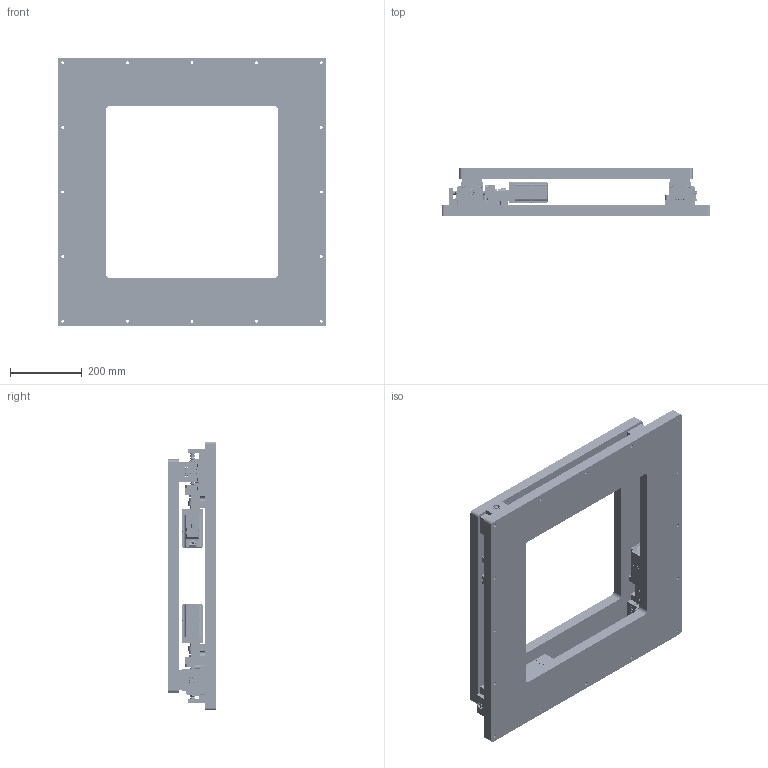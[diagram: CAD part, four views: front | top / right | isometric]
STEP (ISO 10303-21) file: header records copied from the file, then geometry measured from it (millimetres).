
FILE_DESCRIPTION (( 'STEP AP214' ), '1' );
FILE_NAME ('XXY650A-PM57.STEP', '2025-01-03T07:41:12', ( '' ), ( '' ), 'SwSTEP 2.0', 'SolidWorks 2020', '' );
FILE_SCHEMA (( 'AUTOMOTIVE_DESIGN' ));
Length unit declared in the file: millimetre
Products named in the file (1): XXY650A-PM57
Bounding box: 750 x 133 x 750 mm (x, y, z)
Surface area: 1992894.1 mm2 (no closed solid volume)
Topology: 0 solids, 45 shells, 8601 faces, 22411 edges, 13814 vertices
Faces by surface type: plane 3460, cylinder 3093, cone 1260, bspline 764, torus 24
Entity records: 379675 total; most frequent: CARTESIAN_POINT 74169, DIRECTION 44909, ORIENTED_EDGE 43027, EDGE_CURVE 21557, AXIS2_PLACEMENT_3D 16457, VERTEX_POINT 13811, LINE 11995, VECTOR 11995
